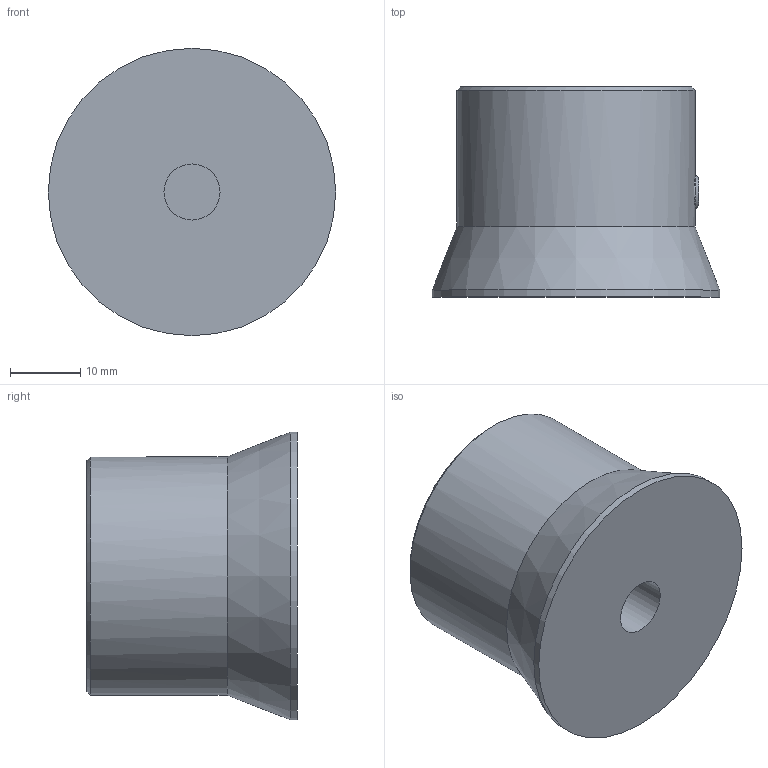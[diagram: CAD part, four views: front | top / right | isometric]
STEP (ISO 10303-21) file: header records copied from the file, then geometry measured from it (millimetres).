
FILE_DESCRIPTION( ( 'STEP AP203' ), '1' );
FILE_NAME( 'C:/Temp/Ganter_Step_05_03_2020/data/1_4/gn_726_2/gn_726_2_a/gn_726_2_a_1/Control knob GN 726.2-34-B8-A-1.stp', '2020-03-05T10:49:58', ( 'License CC BY-ND 4.0' ), ( 'CADENAS' ), ' ', 'PARTsolutions', ' ' );
FILE_SCHEMA( ( 'CONFIG_CONTROL_DESIGN' ) );
Length unit declared in the file: millimetre
Products named in the file (1): _Control knob GN 726.2-34-B8-A-1
Bounding box: 41 x 30 x 41 mm (x, y, z)
Volume: 27829.1 mm3; surface area: 6315.2 mm2
Topology: 1 solids, 1 shells, 131 faces, 373 edges, 247 vertices
Faces by surface type: cylinder 81, plane 37, cone 13
Full cylindrical faces by diameter (mm): 8 x1, 34 x1, 41 x1
Entity records: 4568 total; most frequent: CARTESIAN_POINT 1189, ORIENTED_EDGE 732, DIRECTION 671, EDGE_CURVE 366, AXIS2_PLACEMENT_3D 263, VERTEX_POINT 246, LINE 145, VECTOR 145
